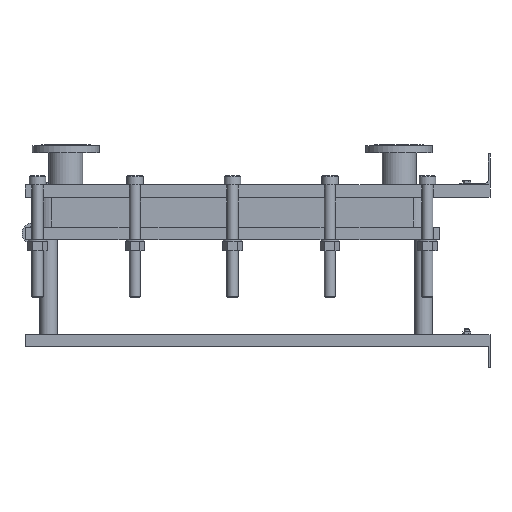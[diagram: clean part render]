
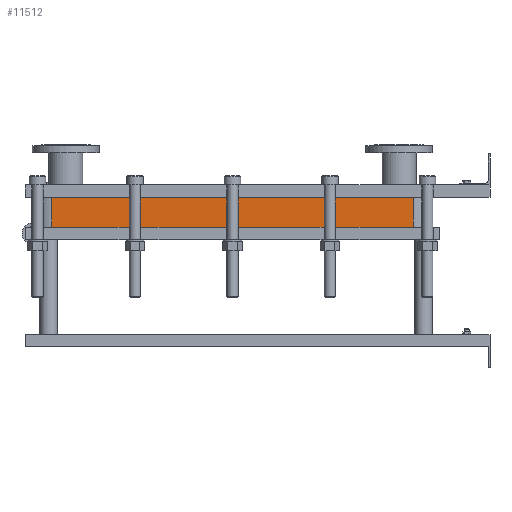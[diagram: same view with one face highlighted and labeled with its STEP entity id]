
A CAD part, left-side view. The second image highlights one B-rep face of the part: STEP entity #11512.
In plain terms, the highlighted planar face has unit normal (-1, 0, 0).
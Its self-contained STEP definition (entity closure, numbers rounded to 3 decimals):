
#1129=LINE('',#23232,#2102);
#1130=LINE('',#23236,#2103);
#1131=LINE('',#23238,#2104);
#1132=LINE('',#23239,#2105);
#2102=VECTOR('',#15887,10.);
#2103=VECTOR('',#15892,10.);
#2104=VECTOR('',#15893,10.);
#2105=VECTOR('',#15894,10.);
#3267=FACE_OUTER_BOUND('',#4093,.T.);
#4093=EDGE_LOOP('',(#10103,#10104,#10105,#10106));
#5642=VERTEX_POINT('',#23229);
#5643=VERTEX_POINT('',#23231);
#5644=VERTEX_POINT('',#23235);
#5645=VERTEX_POINT('',#23237);
#7159=EDGE_CURVE('',#5643,#5642,#1129,.T.);
#7161=EDGE_CURVE('',#5642,#5644,#1130,.T.);
#7162=EDGE_CURVE('',#5645,#5644,#1131,.T.);
#7163=EDGE_CURVE('',#5645,#5643,#1132,.T.);
#10103=ORIENTED_EDGE('',*,*,#7161,.T.);
#10104=ORIENTED_EDGE('',*,*,#7162,.F.);
#10105=ORIENTED_EDGE('',*,*,#7163,.T.);
#10106=ORIENTED_EDGE('',*,*,#7159,.T.);
#10857=PLANE('',#12751);
#11512=ADVANCED_FACE('',(#3267),#10857,.T.);
#12751=AXIS2_PLACEMENT_3D('',#23234,#15890,#15891);
#15887=DIRECTION('',(0.,0.,-1.));
#15890=DIRECTION('center_axis',(-1.,0.,0.));
#15891=DIRECTION('ref_axis',(0.,1.,0.));
#15892=DIRECTION('',(0.,-1.,0.));
#15893=DIRECTION('',(0.,0.,-1.));
#15894=DIRECTION('',(0.,1.,0.));
#23229=CARTESIAN_POINT('',(-200.,1414.,-96.6));
#23231=CARTESIAN_POINT('',(-200.,1414.,0.));
#23232=CARTESIAN_POINT('',(-200.,1414.,0.));
#23234=CARTESIAN_POINT('Origin',(-200.,248.,0.));
#23235=CARTESIAN_POINT('',(-200.,248.,-96.6));
#23236=CARTESIAN_POINT('',(-200.,539.5,-96.6));
#23237=CARTESIAN_POINT('',(-200.,248.,0.));
#23238=CARTESIAN_POINT('',(-200.,248.,0.));
#23239=CARTESIAN_POINT('',(-200.,248.,0.));
